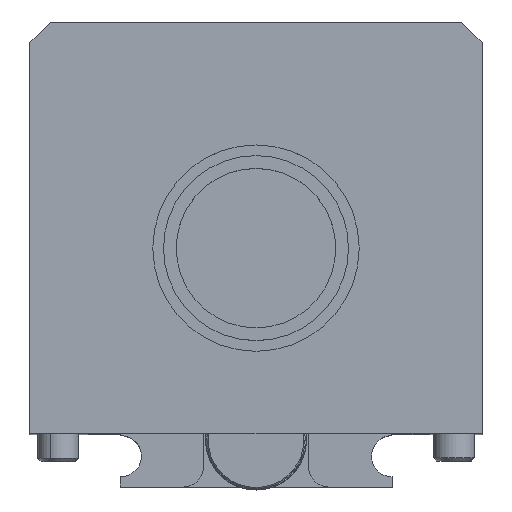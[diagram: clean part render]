
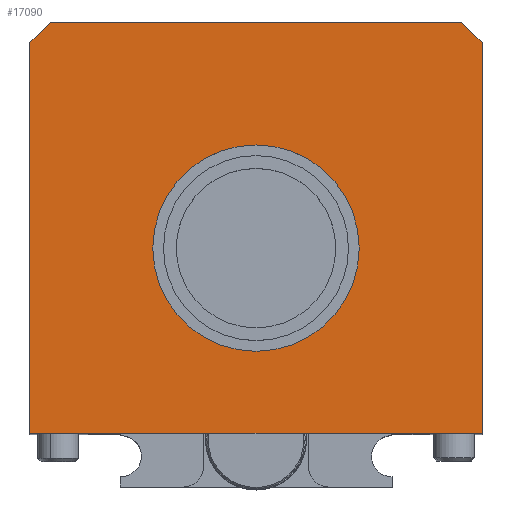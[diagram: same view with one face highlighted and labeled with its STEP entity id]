
A CAD part, top view. The second image highlights one B-rep face of the part: STEP entity #17090.
In plain terms, the highlighted planar face has unit normal (0, 0, 1).
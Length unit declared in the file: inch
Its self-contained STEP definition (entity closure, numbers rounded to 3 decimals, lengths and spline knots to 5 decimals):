
#142 = DIRECTION ( 'NONE',  ( 1., 0., 0. ) ) ;
#2812 = ORIENTED_EDGE ( 'NONE', *, *, #25161, .F. ) ;
#2929 = DIRECTION ( 'NONE',  ( 1., 0., 0. ) ) ;
#5589 = ORIENTED_EDGE ( 'NONE', *, *, #7093, .T. ) ;
#6738 = DIRECTION ( 'NONE',  ( -0.707, -0.707, 0. ) ) ;
#7093 = EDGE_CURVE ( 'NONE', #126010, #84895, #51222, .T. ) ;
#7167 = CARTESIAN_POINT ( 'NONE',  ( -3.44929, -0.11086, 6.96828 ) ) ;
#7501 = FACE_BOUND ( 'NONE', #110715, .T. ) ;
#9520 = VECTOR ( 'NONE', #55844, 39.37008 ) ;
#16233 = VECTOR ( 'NONE', #117205, 39.37008 ) ;
#16806 = VERTEX_POINT ( 'NONE', #32252 ) ;
#17090 = ADVANCED_FACE ( 'NONE', ( #7501, #116957 ), #121196, .T. ) ;
#17209 = VECTOR ( 'NONE', #130267, 39.37008 ) ;
#20544 = CARTESIAN_POINT ( 'NONE',  ( -2.26179, 1.07664, 6.96828 ) ) ;
#21894 = VERTEX_POINT ( 'NONE', #95390 ) ;
#22566 = EDGE_CURVE ( 'NONE', #21894, #126010, #126002, .T. ) ;
#25161 = EDGE_CURVE ( 'NONE', #85729, #116236, #60392, .T. ) ;
#25802 = CARTESIAN_POINT ( 'NONE',  ( 0.48821, -1.29836, 6.96828 ) ) ;
#28763 = AXIS2_PLACEMENT_3D ( 'NONE', #49552, #61542, #90831 ) ;
#32252 = CARTESIAN_POINT ( 'NONE',  ( 0.48821, 1.07664, 6.96828 ) ) ;
#32404 = VECTOR ( 'NONE', #114479, 39.37008 ) ;
#35006 = CIRCLE ( 'NONE', #86996, 0.6275 ) ;
#36320 = ORIENTED_EDGE ( 'NONE', *, *, #42572, .F. ) ;
#37164 = CARTESIAN_POINT ( 'NONE',  ( -0.88679, -0.17336, 6.96828 ) ) ;
#39718 = ORIENTED_EDGE ( 'NONE', *, *, #128867, .T. ) ;
#42572 = EDGE_CURVE ( 'NONE', #116236, #85729, #35006, .T. ) ;
#46301 = CARTESIAN_POINT ( 'NONE',  ( 0.48821, 1.20164, 6.96828 ) ) ;
#49552 = CARTESIAN_POINT ( 'NONE',  ( -0.88679, -0.17336, 6.96828 ) ) ;
#51222 = LINE ( 'NONE', #7167, #128914 ) ;
#53388 = AXIS2_PLACEMENT_3D ( 'NONE', #60158, #90325, #142 ) ;
#55844 = DIRECTION ( 'NONE',  ( -0.707, 0.707, 0. ) ) ;
#60158 = CARTESIAN_POINT ( 'NONE',  ( -2.26179, -1.29836, 6.96828 ) ) ;
#60392 = CIRCLE ( 'NONE', #28763, 0.6275 ) ;
#61542 = DIRECTION ( 'NONE',  ( 0., 0., 1. ) ) ;
#66567 = CARTESIAN_POINT ( 'NONE',  ( 0.30071, 1.26414, 6.96828 ) ) ;
#72891 = ORIENTED_EDGE ( 'NONE', *, *, #22566, .T. ) ;
#76664 = LINE ( 'NONE', #46301, #16233 ) ;
#79388 = VECTOR ( 'NONE', #2929, 39.37008 ) ;
#80320 = CARTESIAN_POINT ( 'NONE',  ( -2.26179, 1.20164, 6.96828 ) ) ;
#81846 = ORIENTED_EDGE ( 'NONE', *, *, #99155, .T. ) ;
#84895 = VERTEX_POINT ( 'NONE', #20544 ) ;
#85729 = VERTEX_POINT ( 'NONE', #129153 ) ;
#86987 = DIRECTION ( 'NONE',  ( 1., 0., 0. ) ) ;
#86996 = AXIS2_PLACEMENT_3D ( 'NONE', #37164, #128052, #86987 ) ;
#87407 = LINE ( 'NONE', #66567, #9520 ) ;
#90325 = DIRECTION ( 'NONE',  ( 0., 0., 1. ) ) ;
#90831 = DIRECTION ( 'NONE',  ( 1., 0., 0. ) ) ;
#93718 = CARTESIAN_POINT ( 'NONE',  ( -2.26179, 1.20164, 6.96828 ) ) ;
#94553 = EDGE_LOOP ( 'NONE', ( #95746, #81846, #72891, #5589, #109304, #39718 ) ) ;
#94595 = CARTESIAN_POINT ( 'NONE',  ( -1.51429, -0.17336, 6.96828 ) ) ;
#94898 = EDGE_CURVE ( 'NONE', #84895, #108876, #106137, .T. ) ;
#95390 = CARTESIAN_POINT ( 'NONE',  ( 0.36321, 1.20164, 6.96828 ) ) ;
#95746 = ORIENTED_EDGE ( 'NONE', *, *, #125078, .T. ) ;
#97456 = CARTESIAN_POINT ( 'NONE',  ( -2.13679, 1.20164, 6.96828 ) ) ;
#99155 = EDGE_CURVE ( 'NONE', #16806, #21894, #87407, .T. ) ;
#104272 = CARTESIAN_POINT ( 'NONE',  ( -2.26179, -1.29836, 6.96828 ) ) ;
#106137 = LINE ( 'NONE', #80320, #17209 ) ;
#108876 = VERTEX_POINT ( 'NONE', #104272 ) ;
#109304 = ORIENTED_EDGE ( 'NONE', *, *, #94898, .T. ) ;
#110715 = EDGE_LOOP ( 'NONE', ( #2812, #36320 ) ) ;
#114479 = DIRECTION ( 'NONE',  ( -1., 0., 0. ) ) ;
#116236 = VERTEX_POINT ( 'NONE', #94595 ) ;
#116957 = FACE_OUTER_BOUND ( 'NONE', #94553, .T. ) ;
#117205 = DIRECTION ( 'NONE',  ( 0., 1., 0. ) ) ;
#120456 = LINE ( 'NONE', #123091, #79388 ) ;
#121196 = PLANE ( 'NONE',  #53388 ) ;
#123091 = CARTESIAN_POINT ( 'NONE',  ( -2.26179, -1.29836, 6.96828 ) ) ;
#125078 = EDGE_CURVE ( 'NONE', #130472, #16806, #76664, .T. ) ;
#126002 = LINE ( 'NONE', #93718, #32404 ) ;
#126010 = VERTEX_POINT ( 'NONE', #97456 ) ;
#128052 = DIRECTION ( 'NONE',  ( 0., 0., 1. ) ) ;
#128867 = EDGE_CURVE ( 'NONE', #108876, #130472, #120456, .T. ) ;
#128914 = VECTOR ( 'NONE', #6738, 39.37008 ) ;
#129153 = CARTESIAN_POINT ( 'NONE',  ( -0.25929, -0.17336, 6.96828 ) ) ;
#130267 = DIRECTION ( 'NONE',  ( 0., -1., 0. ) ) ;
#130472 = VERTEX_POINT ( 'NONE', #25802 ) ;
